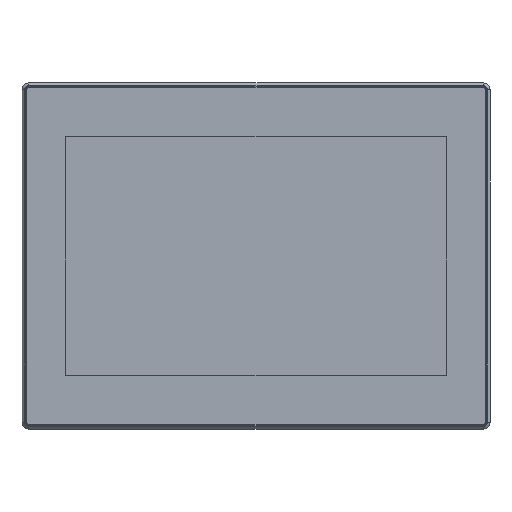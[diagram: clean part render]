
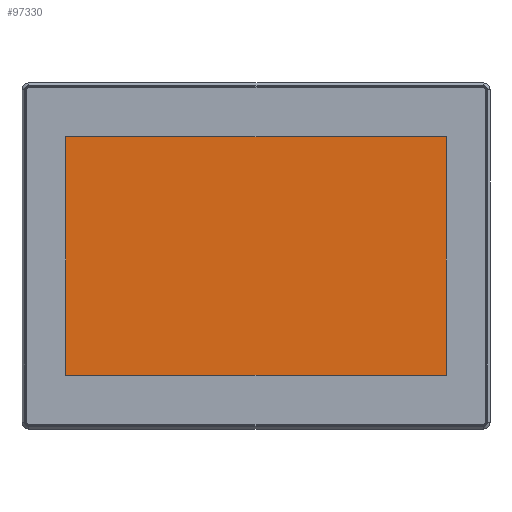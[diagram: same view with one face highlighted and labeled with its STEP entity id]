
A CAD part, top view. The second image highlights one B-rep face of the part: STEP entity #97330.
In plain terms, the highlighted planar face has unit normal (0, 0, 1).
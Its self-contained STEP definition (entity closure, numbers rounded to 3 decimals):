
#823 = CARTESIAN_POINT ( 'NONE',  ( 243.48, 30.7, 64.125 ) ) ;
#3797 = CARTESIAN_POINT ( 'NONE',  ( 243.48, 167.8, 64.125 ) ) ;
#6094 = CARTESIAN_POINT ( 'NONE',  ( 243.48, 167.8, 64.125 ) ) ;
#8854 = ORIENTED_EDGE ( 'NONE', *, *, #104934, .T. ) ;
#9353 = VERTEX_POINT ( 'NONE', #41618 ) ;
#17665 = EDGE_LOOP ( 'NONE', ( #71907, #51498, #100071, #8854 ) ) ;
#17915 = CARTESIAN_POINT ( 'NONE',  ( 134.25, 99.25, 64.125 ) ) ;
#18854 = VECTOR ( 'NONE', #48799, 1000. ) ;
#24022 = LINE ( 'NONE', #65299, #18854 ) ;
#27812 = PLANE ( 'NONE',  #64548 ) ;
#28132 = VECTOR ( 'NONE', #43998, 1000. ) ;
#28282 = LINE ( 'NONE', #53570, #63449 ) ;
#40258 = CARTESIAN_POINT ( 'NONE',  ( 25.02, 30.7, 64.125 ) ) ;
#41618 = CARTESIAN_POINT ( 'NONE',  ( 25.02, 167.8, 64.125 ) ) ;
#43201 = DIRECTION ( 'NONE',  ( 1., 0., 0. ) ) ;
#43343 = VERTEX_POINT ( 'NONE', #40258 ) ;
#43998 = DIRECTION ( 'NONE',  ( 0., 1., 0. ) ) ;
#46820 = EDGE_CURVE ( 'NONE', #9353, #43343, #24022, .T. ) ;
#48752 = EDGE_CURVE ( 'NONE', #43343, #107712, #102084, .T. ) ;
#48799 = DIRECTION ( 'NONE',  ( 0., -1., 0. ) ) ;
#51498 = ORIENTED_EDGE ( 'NONE', *, *, #48752, .T. ) ;
#53570 = CARTESIAN_POINT ( 'NONE',  ( 243.48, 167.8, 64.125 ) ) ;
#58014 = CARTESIAN_POINT ( 'NONE',  ( 243.48, 30.7, 64.125 ) ) ;
#59170 = FACE_OUTER_BOUND ( 'NONE', #17665, .T. ) ;
#61360 = DIRECTION ( 'NONE',  ( 0., 0., -1. ) ) ;
#62872 = DIRECTION ( 'NONE',  ( -1., 0., 0. ) ) ;
#63203 = EDGE_CURVE ( 'NONE', #107712, #71031, #93511, .T. ) ;
#63449 = VECTOR ( 'NONE', #62872, 1000. ) ;
#64548 = AXIS2_PLACEMENT_3D ( 'NONE', #17915, #61360, #76774 ) ;
#65299 = CARTESIAN_POINT ( 'NONE',  ( 25.02, 167.8, 64.125 ) ) ;
#71031 = VERTEX_POINT ( 'NONE', #6094 ) ;
#71907 = ORIENTED_EDGE ( 'NONE', *, *, #46820, .T. ) ;
#76774 = DIRECTION ( 'NONE',  ( 0., -1., 0. ) ) ;
#84118 = VECTOR ( 'NONE', #43201, 1000. ) ;
#93511 = LINE ( 'NONE', #3797, #28132 ) ;
#97330 = ADVANCED_FACE ( 'NONE', ( #59170 ), #27812, .F. ) ;
#100071 = ORIENTED_EDGE ( 'NONE', *, *, #63203, .T. ) ;
#102084 = LINE ( 'NONE', #823, #84118 ) ;
#104934 = EDGE_CURVE ( 'NONE', #71031, #9353, #28282, .T. ) ;
#107712 = VERTEX_POINT ( 'NONE', #58014 ) ;
